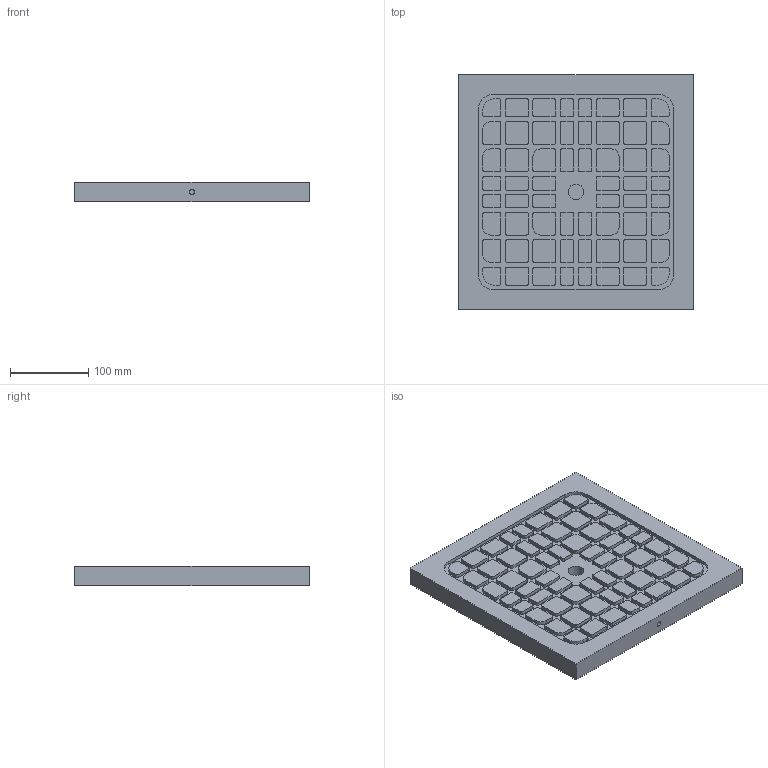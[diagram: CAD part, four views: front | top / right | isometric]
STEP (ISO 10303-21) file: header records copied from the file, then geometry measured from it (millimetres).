
FILE_DESCRIPTION(/* description */ (''),/* implementation_level */ '2;1');
FILE_NAME(/* name */ 'Vkuum Platte.step',/* time_stamp */ '2026-05-12T16:43:55+02:00',/* author */ (''),/* organization */ (''),/* preprocessor_version */ 'ST-DEVELOPER v20.1',/* originating_system */ 'Autodesk Translation Framework v15.8.0.0',/* authorisation */ '');
FILE_SCHEMA (('AUTOMOTIVE_DESIGN { 1 0 10303 214 3 1 1 }'));
Length unit declared in the file: millimetre
Products named in the file (1): Vkuum Platte
Bounding box: 300 x 300 x 25 mm (x, y, z)
Volume: 2127081.8 mm3; surface area: 243754.6 mm2
Topology: 1 solids, 1 shells, 558 faces, 1483 edges, 989 vertices
Faces by surface type: plane 312, cylinder 246
Full cylindrical faces by diameter (mm): 6 x1, 20 x1
Entity records: 17513 total; most frequent: DIRECTION 3090, CARTESIAN_POINT 3065, ORIENTED_EDGE 2966, EDGE_CURVE 1483, AXIS2_PLACEMENT_3D 1050, LINE 990, VECTOR 990, VERTEX_POINT 989
